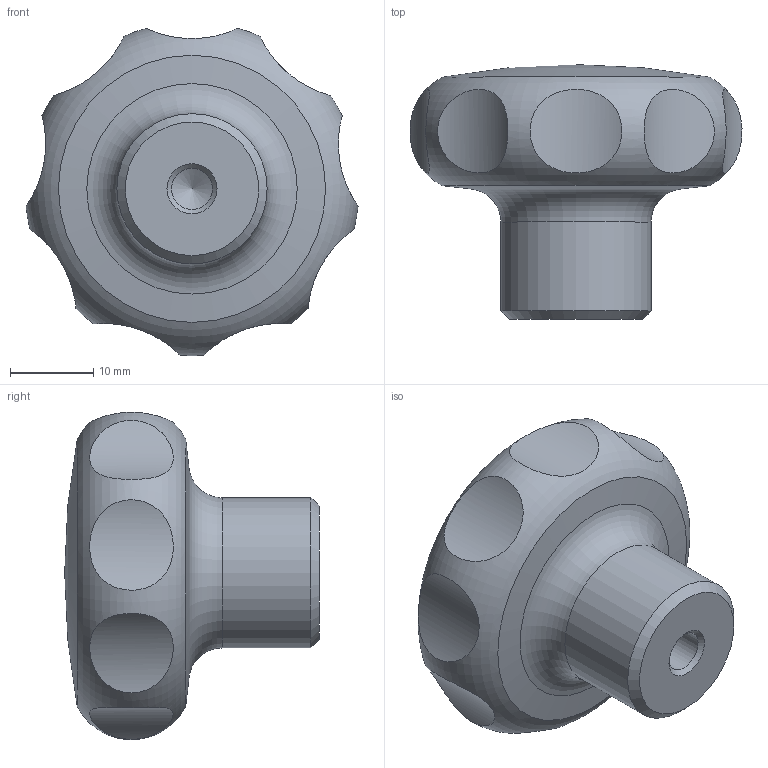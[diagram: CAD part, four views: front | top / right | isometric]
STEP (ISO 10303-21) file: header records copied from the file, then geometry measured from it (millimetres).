
FILE_DESCRIPTION( ( 'STEP AP203' ), '1' );
FILE_NAME( 'C:/Temp/Ganter_Step_05_03_2020/data/2_2/gn_5335/gn_5335_ni_e/Stainless steel-Star knob GN 5335-40-M6-E.stp', '2020-03-05T12:10:25', ( 'License CC BY-ND 4.0' ), ( 'CADENAS' ), ' ', 'PARTsolutions', ' ' );
FILE_SCHEMA( ( 'CONFIG_CONTROL_DESIGN' ) );
Length unit declared in the file: millimetre
Products named in the file (1): _Stainless steel-Star knob GN 5335-40-M6-E
Bounding box: 39.77 x 30.5 x 39.22 mm (x, y, z)
Volume: 18505 mm3; surface area: 4408.9 mm2
Topology: 1 solids, 1 shells, 19 faces, 30 edges, 21 vertices
Faces by surface type: cylinder 11, cone 3, torus 2, sphere 2, plane 1
Full cylindrical faces by diameter (mm): 4.917 x1, 18 x1
Entity records: 1169 total; most frequent: CARTESIAN_POINT 825, DIRECTION 58, EDGE_LOOP 36, ORIENTED_EDGE 36, AXIS2_PLACEMENT_3D 29, FACE_OUTER_BOUND 24, VERTEX_POINT 21, ADVANCED_FACE 19
